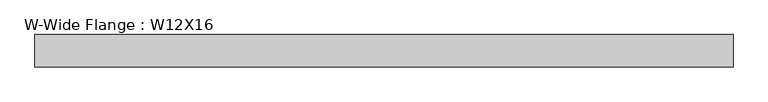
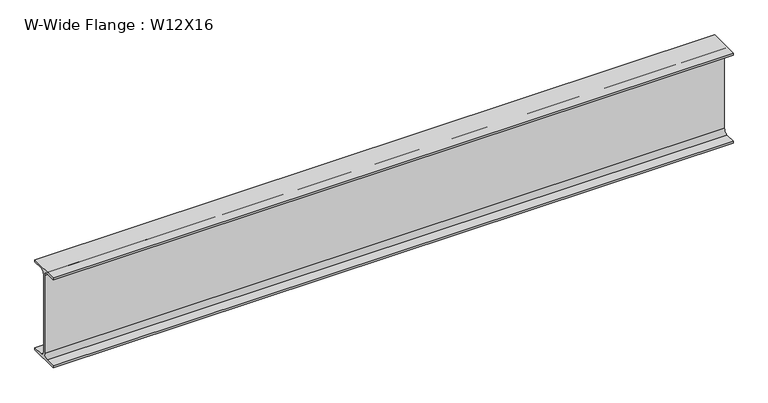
"""IFC4 building model written with IfcOpenShell, lengths in millimetres: beam geometry, W-Wide Flange : W12X16."""

import ifcopenshell
import ifcopenshell.guid

model = None  # the IFC model being written
_history = None  # IfcOwnerHistory: only IFC2X3 demands one
_inside = {}  # id of a spatial element -> (the spatial element, [elements in it])
_under = {}  # id of a project, library or spatial element -> (it, [spatial elements below it])
_declared = {}  # id of a project -> (the project, [libraries it declares])
_typed = {}  # id of a type object -> (the type object, [elements of that type])
_made_of = {}  # id of a material, layer set ... -> (it, [elements and type objects made of it])


def new_model(schema):
    """Start an empty IFC model of exactly this schema.

    Asked for "IFC4X3", IfcOpenShell would pick the latest addendum, in which some entities
    have other attributes; the version numbers below select the first issue.
    IFC2X3 requires an IfcOwnerHistory on every rooted entity: one is made here for all.
    """
    global model, _history
    if schema == "IFC4X3":
        model = ifcopenshell.file(schema_version=(4, 3, 0, 0))
    else:
        model = ifcopenshell.file(schema=schema)
    _inside.clear()
    _under.clear()
    _declared.clear()
    _typed.clear()
    _made_of.clear()
    _history = None
    if model.schema == "IFC2X3":
        org = make("IfcOrganization", Name="unknown")
        user = make(
            "IfcPersonAndOrganization",
            ThePerson=make("IfcPerson", FamilyName="unknown"),
            TheOrganization=org,
        )
        app = make(
            "IfcApplication",
            ApplicationDeveloper=org,
            Version="unknown",
            ApplicationFullName="unknown",
            ApplicationIdentifier="unknown",
        )
        _history = make(
            "IfcOwnerHistory",
            OwningUser=user,
            OwningApplication=app,
            ChangeAction="ADDED",
            CreationDate=0,
        )
    return model


def make(cls, **values):
    """One entity of the class cls with the attributes given. An attribute that is None is left unset."""
    return model.create_entity(
        cls, **{name: value for name, value in values.items() if value is not None}
    )


def rooted(cls, **values):
    """An entity with a GlobalId (a new one), such as an element, a storey or a relation."""
    return make(cls, GlobalId=ifcopenshell.guid.new(), OwnerHistory=_history, **values)


def si_unit(unit_type, name, prefix=None):
    """IfcSIUnit, for example si_unit("LENGTHUNIT", "METRE", prefix="MILLI")."""
    return make("IfcSIUnit", UnitType=unit_type, Prefix=prefix, Name=name)


def assignment(units):
    """IfcUnitAssignment: the units of a project."""
    return None if units is None else make("IfcUnitAssignment", Units=units)


def point(xyz):
    """IfcCartesianPoint."""
    return None if xyz is None else make("IfcCartesianPoint", Coordinates=xyz)


def direction(xyz):
    """IfcDirection."""
    return None if xyz is None else make("IfcDirection", DirectionRatios=xyz)


def frame(location, z_axis=None, x_axis=None):
    """IfcAxis2Placement3D, a coordinate frame: its origin and axes. An axis left out is left unset."""
    return make(
        "IfcAxis2Placement3D",
        Location=point(location),
        Axis=direction(z_axis),
        RefDirection=direction(x_axis),
    )


def frame_2d(location, x_axis=None):
    """IfcAxis2Placement2D, a coordinate frame in the plane: its origin and x axis."""
    return make(
        "IfcAxis2Placement2D", Location=point(location), RefDirection=direction(x_axis)
    )


def origin():
    """The frame at (0, 0, 0) with its axes left unset."""
    return frame((0.0, 0.0, 0.0))


def place(relative_to, where):
    """IfcLocalPlacement: puts the frame where relative to a parent placement (None: the world)."""
    return make(
        "IfcLocalPlacement", PlacementRelTo=relative_to, RelativePlacement=where
    )


def context(
    kind, dimensions, precision=None, world=None, true_north=None, identifier=None
):
    """IfcGeometricRepresentationContext, for example the 3D "Model" context."""
    return make(
        "IfcGeometricRepresentationContext",
        ContextIdentifier=identifier,
        ContextType=kind,
        CoordinateSpaceDimension=dimensions,
        Precision=precision,
        WorldCoordinateSystem=world,
        TrueNorth=true_north,
    )


def project(units=None, contexts=None):
    """IfcProject with its units and contexts."""
    return rooted(
        "IfcProject",
        Name="project",
        RepresentationContexts=contexts,
        UnitsInContext=assignment(units),
    )


def spatial(cls, under=None, at=None, **own):
    """A site, building, storey or space (cls), placed at a placement, below another one or the project."""
    s = rooted(cls, ObjectPlacement=at, **own)
    if under is not None:
        _under.setdefault(under.id(), (under, []))[1].append(s)
    return s


def polyline(points):
    """IfcPolyline through the points."""
    return make("IfcPolyline", Points=[point(p) for p in points])


def circle_curve(where, radius):
    """IfcCircle in the frame where."""
    return make("IfcCircle", Position=where, Radius=radius)


def trimmed(basis, trim1, trim2, sense, master):
    """IfcTrimmedCurve: the piece of a basis curve between two trims."""
    return make(
        "IfcTrimmedCurve",
        BasisCurve=basis,
        Trim1=trim1,
        Trim2=trim2,
        SenseAgreement=sense,
        MasterRepresentation=master,
    )


def segment(curve, same_sense, transition):
    """IfcCompositeCurveSegment."""
    return make(
        "IfcCompositeCurveSegment",
        Transition=transition,
        SameSense=same_sense,
        ParentCurve=curve,
    )


def composite_curve(segments, self_intersect=None):
    """IfcCompositeCurve: segments joined end to end."""
    return make("IfcCompositeCurve", Segments=segments, SelfIntersect=self_intersect)


def outline(outer, holes=None, kind="AREA"):
    """IfcArbitraryClosedProfileDef: a profile drawn as a closed curve; with holes, ...WithVoids."""
    if holes is None:
        return make("IfcArbitraryClosedProfileDef", ProfileType=kind, OuterCurve=outer)
    return make(
        "IfcArbitraryProfileDefWithVoids",
        ProfileType=kind,
        OuterCurve=outer,
        InnerCurves=holes,
    )


def extrude(swept, where, along, depth):
    """IfcExtrudedAreaSolid: the profile swept, set in the frame where, extruded along a direction by depth."""
    return make(
        "IfcExtrudedAreaSolid",
        SweptArea=swept,
        Position=where,
        ExtrudedDirection=direction(along),
        Depth=depth,
    )


def shape(context_of_items, identifier, shape_type, items):
    """IfcShapeRepresentation: the items that make up one representation, for example the "Body"."""
    return make(
        "IfcShapeRepresentation",
        ContextOfItems=context_of_items,
        RepresentationIdentifier=identifier,
        RepresentationType=shape_type,
        Items=items,
    )


def source(mapping_origin, context_of_items, identifier, shape_type, items):
    """IfcRepresentationMap: a shape defined once, which mapped items show again and again."""
    return make(
        "IfcRepresentationMap",
        MappingOrigin=mapping_origin,
        MappedRepresentation=shape(context_of_items, identifier, shape_type, items),
    )


def transform(
    local_origin,
    x_axis=None,
    y_axis=None,
    z_axis=None,
    scale=None,
    scale2=None,
    scale3=None,
    uniform=True,
):
    """IfcCartesianTransformationOperator3D, or its non-uniform kind. x_axis, y_axis, z_axis: its Axis1, 2, 3."""
    if uniform:
        return make(
            "IfcCartesianTransformationOperator3D",
            Axis1=direction(x_axis),
            Axis2=direction(y_axis),
            LocalOrigin=point(local_origin),
            Scale=scale,
            Axis3=direction(z_axis),
        )
    return make(
        "IfcCartesianTransformationOperator3DnonUniform",
        Axis1=direction(x_axis),
        Axis2=direction(y_axis),
        LocalOrigin=point(local_origin),
        Scale=scale,
        Axis3=direction(z_axis),
        Scale2=scale2,
        Scale3=scale3,
    )


def mapped(mapping_source, mapping_target):
    """IfcMappedItem: shows the shape of a source again, moved by a transform."""
    return make(
        "IfcMappedItem", MappingSource=mapping_source, MappingTarget=mapping_target
    )


def made_of(thing, what):
    """Note that an element or type object is made of a material, layer set ...; save() writes the relation."""
    if what is not None:
        _made_of.setdefault(what.id(), (what, []))[1].append(thing)
    return thing


def element(
    cls,
    number,
    at=None,
    inside=None,
    cuts=None,
    type_object=None,
    material=None,
    context=None,
    identifier="Body",
    shape_type=None,
    held_by="IfcProductDefinitionShape",
    body=None,
    shapes=None,
    **own,
):
    """One element of the class cls, such as IfcWall. Its Tag is "e" and its number.

    at: its placement. inside: the storey or other place that contains it. cuts: it is an
    opening in that element (IfcRelVoidsElement). A single representation is given by context,
    identifier, shape_type and body (its items); several are given by shapes. held_by: the class
    of the entity that holds the representations. save() writes the other relations.
    """
    e = rooted(cls, Tag="e%d" % number, ObjectPlacement=at, **own)
    if body is not None:
        shapes = [shape(context, identifier, shape_type, body)]
    if shapes is not None:
        e.Representation = make(held_by, Representations=shapes)
    if inside is not None:
        _inside.setdefault(inside.id(), (inside, []))[1].append(e)
    if cuts is not None:
        rooted(
            "IfcRelVoidsElement", RelatingBuildingElement=cuts, RelatedOpeningElement=e
        )
    if type_object is not None:
        _typed.setdefault(type_object.id(), (type_object, []))[1].append(e)
    return made_of(e, material)


def aggregate(whole, parts):
    """IfcRelAggregates: a whole, such as a stair, and the parts it consists of."""
    return rooted("IfcRelAggregates", RelatingObject=whole, RelatedObjects=parts)


def save(model, path):
    """Write the relations noted so far, then the file.

    IfcRelAggregates (storeys below a building ...), IfcRelContainedInSpatialStructure (elements
    in a storey), IfcRelDefinesByType, IfcRelAssociatesMaterial and IfcRelDeclares: one each for
    every whole, place, type object, material and project.
    """
    for whole, parts in _under.values():
        aggregate(whole, parts)
    for where, things in _inside.values():
        rooted(
            "IfcRelContainedInSpatialStructure",
            RelatedElements=things,
            RelatingStructure=where,
        )
    for kind, things in _typed.values():
        rooted("IfcRelDefinesByType", RelatedObjects=things, RelatingType=kind)
    for what, things in _made_of.values():
        rooted("IfcRelAssociatesMaterial", RelatedObjects=things, RelatingMaterial=what)
    for by, libraries in _declared.values():
        rooted("IfcRelDeclares", RelatingContext=by, RelatedDefinitions=libraries)
    model.write(path)


def w_wide_flange_w12x16_59da3857(model_context):
    return source(origin(), model_context, "Body", "SweptSolid", [
        extrude(outline(composite_curve([segment(polyline([(50.673, -145.669), (50.673, -152.4), (-50.673, -152.4), (-50.673, -145.669), (-16.7005, -145.669)]), True, "CONTINUOUS"), segment(trimmed(circle_curve(frame_2d((-16.7005, -131.7625)), 13.9065), [point((-16.7005, -145.669))], [point((-2.794, -131.7625))], True, "CARTESIAN"), True, "CONTINUOUS"), segment(polyline([(-2.794, -131.7625), (-2.794, 131.7625)]), True, "CONTINUOUS"), segment(trimmed(circle_curve(frame_2d((-16.7005, 131.7625)), 13.9065), [point((-2.794, 131.7625))], [point((-16.7005, 145.669))], True, "CARTESIAN"), True, "CONTINUOUS"), segment(polyline([(-16.7005, 145.669), (-50.673, 145.669), (-50.673, 152.4), (50.673, 152.4), (50.673, 145.669), (16.7005, 145.669)]), True, "CONTINUOUS"), segment(trimmed(circle_curve(frame_2d((16.7005, 131.7625)), 13.9065), [point((16.7005, 145.669))], [point((2.794, 131.7625))], True, "CARTESIAN"), True, "CONTINUOUS"), segment(polyline([(2.794, 131.7625), (2.794, -131.7625)]), True, "CONTINUOUS"), segment(trimmed(circle_curve(frame_2d((16.7005, -131.7625)), 13.9065), [point((2.794, -131.7625))], [point((16.7005, -145.669))], True, "CARTESIAN"), True, "CONTINUOUS"), segment(polyline([(16.7005, -145.669), (50.673, -145.669)]), True, "CONTINUOUS")], self_intersect=False)), frame((-1062.7816406, 0.0, 0.0), z_axis=(1.0, 0.0, 0.0), x_axis=(0.0, 1.0, 0.0)), (0.0, 0.0, 1.0), 2175.5695313),
    ])


if __name__ == "__main__":
    model = new_model("IFC4")
    model_context = context("Model", 3, world=origin())
    ifc_project = project(units=[si_unit("LENGTHUNIT", "METRE", prefix="MILLI")], contexts=[model_context])
    site = spatial("IfcSite", under=ifc_project)
    building = spatial("IfcBuilding", under=site)
    placement = place(None, origin())
    w_wide_flange_w12x16_shape = w_wide_flange_w12x16_59da3857(model_context)
    element("IfcBeam", 1, ObjectType="W-Wide Flange : W12X16", at=placement, inside=building, context=model_context, shape_type="MappedRepresentation", body=[
        mapped(w_wide_flange_w12x16_shape, transform((0.0, 0.0, 0.0), x_axis=(1.0, 0.0, 0.0), y_axis=(0.0, 1.0, 0.0), z_axis=(0.0, 0.0, 1.0))),
    ])
    save(model, "model.ifc")
